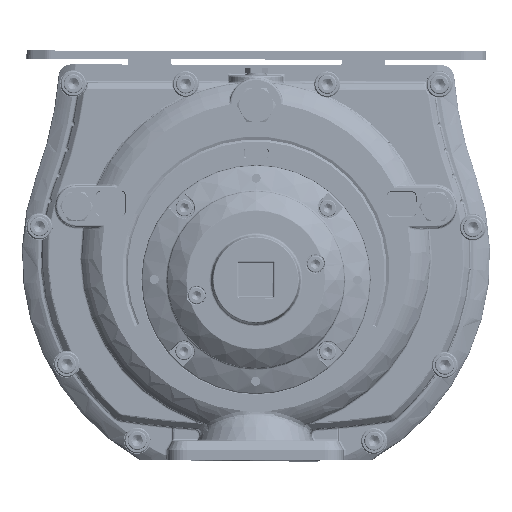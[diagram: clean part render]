
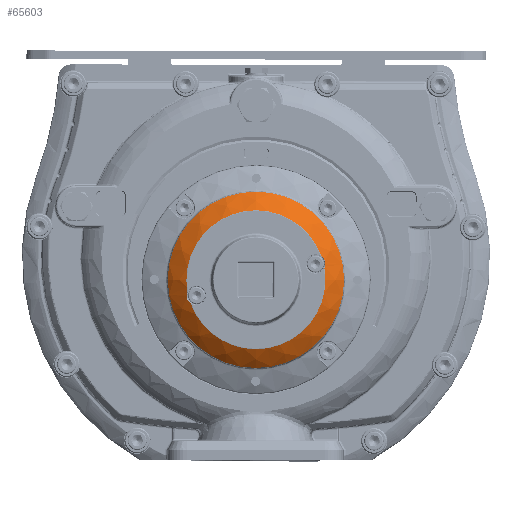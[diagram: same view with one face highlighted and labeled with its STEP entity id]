
A CAD part, left-side view. The second image highlights one B-rep face of the part: STEP entity #65603.
In plain terms, the highlighted free-form (B-spline) face has degree [2, 2] with [3, 9] control points.
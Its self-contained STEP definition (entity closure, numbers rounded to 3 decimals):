
#1323=(
BOUNDED_SURFACE()
B_SPLINE_SURFACE(2,2,((#102140,#102141,#102142,#102143,#102144,#102145,
#102146,#102147,#102148),(#102149,#102150,#102151,#102152,#102153,#102154,
#102155,#102156,#102157),(#102158,#102159,#102160,#102161,#102162,#102163,
#102164,#102165,#102166)),.UNSPECIFIED.,.F.,.T.,.F.)
B_SPLINE_SURFACE_WITH_KNOTS((3,3),(3,2,2,2,3),(-1.119,-0.756),
(-3.142,-1.571,0.,1.571,3.142),
 .UNSPECIFIED.)
GEOMETRIC_REPRESENTATION_ITEM()
RATIONAL_B_SPLINE_SURFACE(((1.,0.707,1.,0.707,1.,
0.707,1.,0.707,1.),(0.984,0.695,
0.984,0.695,0.984,0.695,
0.984,0.695,0.984),(1.,0.707,
1.,0.707,1.,0.707,1.,0.707,1.)))
REPRESENTATION_ITEM('')
SURFACE()
);
#5499=B_SPLINE_CURVE_WITH_KNOTS('',3,(#101941,#101942,#101943,#101944,#101945,
#101946),.UNSPECIFIED.,.F.,.F.,(4,1,1,4),(-1.23,-0.878,
-0.527,0.),.UNSPECIFIED.);
#5507=B_SPLINE_CURVE_WITH_KNOTS('',3,(#102090,#102091,#102092,#102093,#102094,
#102095),.UNSPECIFIED.,.F.,.F.,(4,1,1,4),(-1.23,-0.703,
-0.351,0.),.UNSPECIFIED.);
#17850=FACE_OUTER_BOUND('',#21785,.T.);
#21785=EDGE_LOOP('',(#48746,#48747,#48748,#48749,#48750,#48751,#48752,#48753));
#26183=CIRCLE('',#70963,64.993);
#26184=CIRCLE('',#70964,64.993);
#26191=CIRCLE('',#70974,64.993);
#26192=CIRCLE('',#70976,82.455);
#26193=CIRCLE('',#70977,60.);
#29728=VERTEX_POINT('',#101889);
#29732=VERTEX_POINT('',#101939);
#29739=VERTEX_POINT('',#102005);
#29740=VERTEX_POINT('',#102007);
#29742=VERTEX_POINT('',#102040);
#29747=VERTEX_POINT('',#102167);
#36744=EDGE_CURVE('',#29732,#29728,#5499,.T.);
#36756=EDGE_CURVE('',#29739,#29728,#26183,.T.);
#36757=EDGE_CURVE('',#29740,#29739,#26184,.T.);
#36765=EDGE_CURVE('',#29740,#29742,#5507,.T.);
#36771=EDGE_CURVE('',#29732,#29742,#26191,.T.);
#36773=EDGE_CURVE('',#29747,#29747,#26192,.T.);
#36774=EDGE_CURVE('',#29747,#29739,#26193,.T.);
#48746=ORIENTED_EDGE('',*,*,#36773,.F.);
#48747=ORIENTED_EDGE('',*,*,#36774,.T.);
#48748=ORIENTED_EDGE('',*,*,#36756,.T.);
#48749=ORIENTED_EDGE('',*,*,#36744,.F.);
#48750=ORIENTED_EDGE('',*,*,#36771,.T.);
#48751=ORIENTED_EDGE('',*,*,#36765,.F.);
#48752=ORIENTED_EDGE('',*,*,#36757,.T.);
#48753=ORIENTED_EDGE('',*,*,#36774,.F.);
#65603=ADVANCED_FACE('',(#17850),#1323,.F.);
#70963=AXIS2_PLACEMENT_3D('',#102006,#80506,#80507);
#70964=AXIS2_PLACEMENT_3D('',#102008,#80508,#80509);
#70974=AXIS2_PLACEMENT_3D('',#102137,#80529,#80530);
#70976=AXIS2_PLACEMENT_3D('',#102168,#80534,#80535);
#70977=AXIS2_PLACEMENT_3D('',#102169,#80536,#80537);
#80506=DIRECTION('center_axis',(0.,0.,
1.));
#80507=DIRECTION('ref_axis',(1.,0.,0.));
#80508=DIRECTION('center_axis',(0.,0.,
1.));
#80509=DIRECTION('ref_axis',(1.,0.,0.));
#80529=DIRECTION('center_axis',(0.,0.,
1.));
#80530=DIRECTION('ref_axis',(1.,0.,0.));
#80534=DIRECTION('center_axis',(0.,0.,
1.));
#80535=DIRECTION('ref_axis',(1.,0.,0.));
#80536=DIRECTION('center_axis',(0.,-1.,0.));
#80537=DIRECTION('ref_axis',(-1.,0.,0.));
#101889=CARTESIAN_POINT('',(61.083,-0.704,-363.099));
#101939=CARTESIAN_POINT('',(64.001,10.187,-363.099));
#101941=CARTESIAN_POINT('Ctrl Pts',(64.001,10.187,-363.099));
#101942=CARTESIAN_POINT('Ctrl Pts',(64.459,9.147,-362.793));
#101943=CARTESIAN_POINT('Ctrl Pts',(64.991,6.863,-362.298));
#101944=CARTESIAN_POINT('Ctrl Pts',(64.312,2.707,-362.105));
#101945=CARTESIAN_POINT('Ctrl Pts',(62.458,0.304,
-362.639));
#101946=CARTESIAN_POINT('Ctrl Pts',(61.083,-0.704,
-363.099));
#102005=CARTESIAN_POINT('',(-64.993,21.5,-363.099));
#102006=CARTESIAN_POINT('Origin',(0.,21.5,
-363.099));
#102007=CARTESIAN_POINT('',(-64.001,32.813,-363.099));
#102008=CARTESIAN_POINT('Origin',(0.,21.5,
-363.099));
#102040=CARTESIAN_POINT('',(-61.083,43.704,-363.099));
#102090=CARTESIAN_POINT('Ctrl Pts',(-64.001,32.813,
-363.099));
#102091=CARTESIAN_POINT('Ctrl Pts',(-64.688,34.373,
-362.639));
#102092=CARTESIAN_POINT('Ctrl Pts',(-65.092,37.38,
-362.105));
#102093=CARTESIAN_POINT('Ctrl Pts',(-63.603,41.32,
-362.298));
#102094=CARTESIAN_POINT('Ctrl Pts',(-61.999,43.032,
-362.793));
#102095=CARTESIAN_POINT('Ctrl Pts',(-61.083,43.704,-363.099));
#102137=CARTESIAN_POINT('Origin',(0.,21.5,
-363.099));
#102140=CARTESIAN_POINT('Ctrl Pts',(-64.993,21.5,
-363.099));
#102141=CARTESIAN_POINT('Ctrl Pts',(-64.993,-43.493,
-363.099));
#102142=CARTESIAN_POINT('Ctrl Pts',(0.,-43.493,
-363.099));
#102143=CARTESIAN_POINT('Ctrl Pts',(64.993,-43.493,
-363.099));
#102144=CARTESIAN_POINT('Ctrl Pts',(64.993,21.5,-363.099));
#102145=CARTESIAN_POINT('Ctrl Pts',(64.993,86.493,-363.099));
#102146=CARTESIAN_POINT('Ctrl Pts',(0.,86.493,
-363.099));
#102147=CARTESIAN_POINT('Ctrl Pts',(-64.993,86.493,-363.099));
#102148=CARTESIAN_POINT('Ctrl Pts',(-64.993,21.5,
-363.099));
#102149=CARTESIAN_POINT('Ctrl Pts',(-74.9,21.5,
-358.294));
#102150=CARTESIAN_POINT('Ctrl Pts',(-74.9,-53.4,
-358.294));
#102151=CARTESIAN_POINT('Ctrl Pts',(0.,-53.4,
-358.294));
#102152=CARTESIAN_POINT('Ctrl Pts',(74.9,-53.4,
-358.294));
#102153=CARTESIAN_POINT('Ctrl Pts',(74.9,21.5,-358.294));
#102154=CARTESIAN_POINT('Ctrl Pts',(74.9,96.4,-358.294));
#102155=CARTESIAN_POINT('Ctrl Pts',(0.,96.4,
-358.294));
#102156=CARTESIAN_POINT('Ctrl Pts',(-74.9,96.4,
-358.294));
#102157=CARTESIAN_POINT('Ctrl Pts',(-74.9,21.5,
-358.294));
#102158=CARTESIAN_POINT('Ctrl Pts',(-82.455,21.5,
-350.285));
#102159=CARTESIAN_POINT('Ctrl Pts',(-82.455,-60.955,
-350.285));
#102160=CARTESIAN_POINT('Ctrl Pts',(0.,-60.955,
-350.285));
#102161=CARTESIAN_POINT('Ctrl Pts',(82.455,-60.955,-350.285));
#102162=CARTESIAN_POINT('Ctrl Pts',(82.455,21.5,-350.285));
#102163=CARTESIAN_POINT('Ctrl Pts',(82.455,103.955,-350.285));
#102164=CARTESIAN_POINT('Ctrl Pts',(0.,103.955,
-350.285));
#102165=CARTESIAN_POINT('Ctrl Pts',(-82.455,103.955,-350.285));
#102166=CARTESIAN_POINT('Ctrl Pts',(-82.455,21.5,
-350.285));
#102167=CARTESIAN_POINT('',(-82.455,21.5,-350.285));
#102168=CARTESIAN_POINT('Origin',(0.,21.5,
-350.285));
#102169=CARTESIAN_POINT('Origin',(-38.809,21.5,-309.114));
